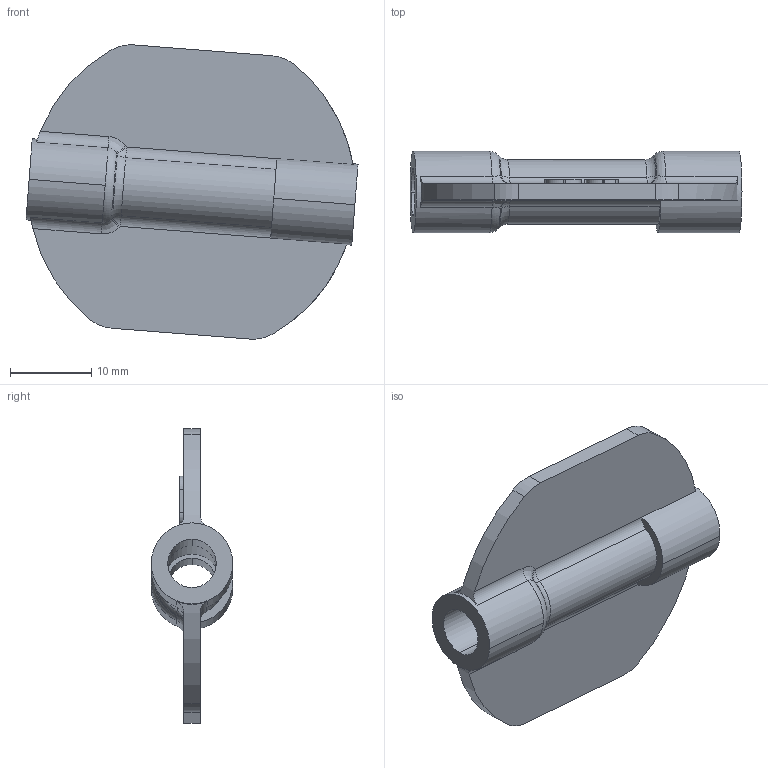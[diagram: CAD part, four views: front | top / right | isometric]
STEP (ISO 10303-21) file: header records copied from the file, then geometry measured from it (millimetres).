
FILE_DESCRIPTION((''),'2;1');
FILE_NAME('0000237056_PRT','2025-11-12T18:33:00',('Wyndorps'),(''),'CREO PARAMETRIC BY PTC INC, 2025010','CREO PARAMETRIC BY PTC INC, 2025010','');
FILE_SCHEMA(('CONFIG_CONTROL_DESIGN'));
Length unit declared in the file: millimetre
Products named in the file (1): 0000237056_PRT
Bounding box: 40.83 x 10 x 36.17 mm (x, y, z)
Volume: 2997.6 mm3; surface area: 3842.1 mm2
Topology: 1 solids, 1 shells, 114 faces, 283 edges, 178 vertices
Faces by surface type: plane 34, cylinder 30, extrusion 23, bspline 12, torus 6, sphere 6, cone 3
Entity records: 4147 total; most frequent: CARTESIAN_POINT 1535, ORIENTED_EDGE 566, DIRECTION 466, EDGE_CURVE 283, VERTEX_POINT 178, AXIS2_PLACEMENT_3D 161, VECTOR 144, EDGE_LOOP 123
